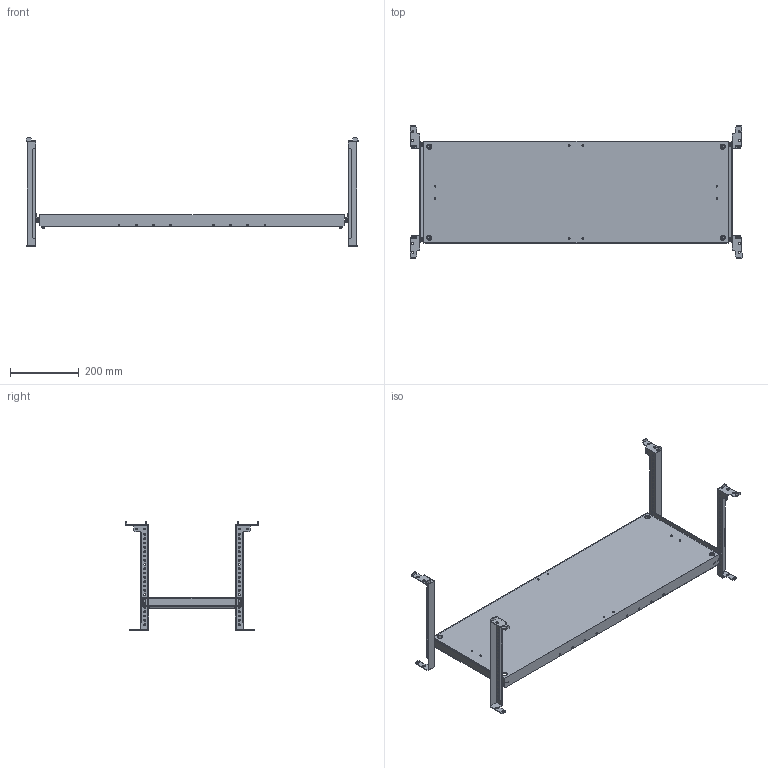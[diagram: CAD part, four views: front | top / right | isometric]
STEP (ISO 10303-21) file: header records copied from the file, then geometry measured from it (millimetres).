
FILE_DESCRIPTION (( 'STEP AP214' ), '1' );
FILE_NAME ('FO-00-MPU-030-100 Ïàíåëü ìîíòàæíàÿ óíèâåðñàëüíàÿ 300õ1000 ìì.STEP', '2025-07-16T08:07:26', ( '' ), ( '' ), 'SwSTEP 2.0', 'SolidWorks 2023', '' );
FILE_SCHEMA (( 'AUTOMOTIVE_DESIGN' ));
Length unit declared in the file: millimetre
Products named in the file (5): Траверса горизонтальнаяD; Траверса горизонтальная; Панель монтажная универсальная 300х1000 мм; FO-00-MPU-030-100 Панель монтажная универсальная 300х1000 мм; Винты DIN 912 4xM6x20 300x1000
Assembly tree (6 placements, depth 2):
  FO-00-MPU-030-100 Панель монтажная универсальная 300х1000 мм
    Панель монтажная универсальная 300х1000 мм
    Винты DIN 912 4xM6x20 300x1000
    Траверса горизонтальнаяD  x2
    Траверса горизонтальная  x2
Bounding box: 966 x 385 x 314.5 mm (x, y, z)
Volume: 942412.1 mm3; surface area: 961710.1 mm2
Topology: 9 solids, 13 shells, 987 faces, 2741 edges, 1828 vertices
Faces by surface type: cylinder 453, plane 442, cone 60, bspline 32
Entity records: 29080 total; most frequent: CARTESIAN_POINT 8915, ORIENTED_EDGE 4150, DIRECTION 4147, EDGE_CURVE 2075, AXIS2_PLACEMENT_3D 1506, VERTEX_POINT 1384, VECTOR 1135, LINE 1135
